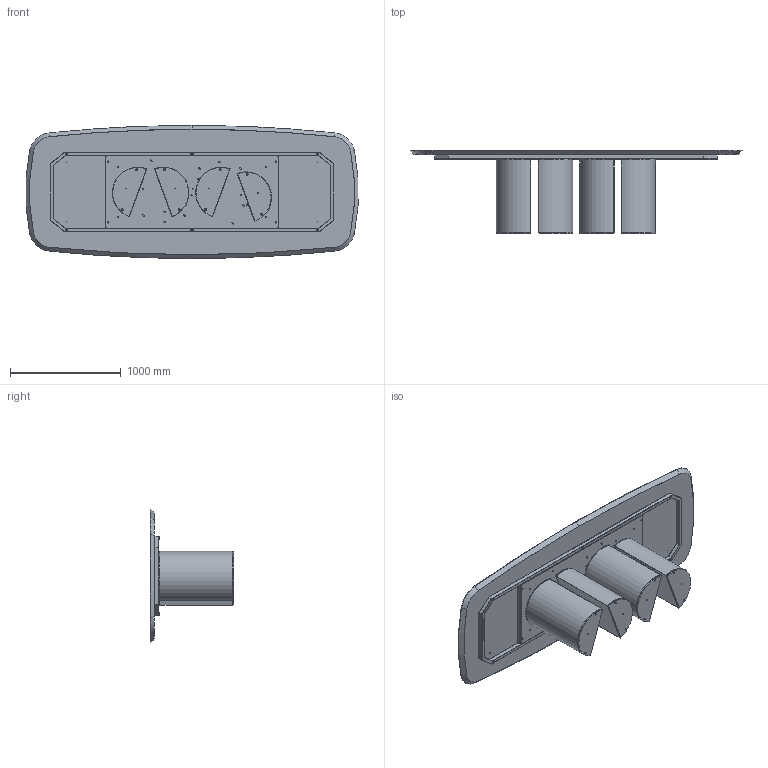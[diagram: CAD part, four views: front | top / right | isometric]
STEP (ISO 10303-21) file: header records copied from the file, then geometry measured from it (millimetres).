
FILE_DESCRIPTION (( 'STEP AP203' ), '1' );
FILE_NAME ('PL44W.STEP', '2024-08-07T13:58:28', ( '' ), ( '' ), 'SwSTEP 2.0', 'SolidWorks 2022', '' );
FILE_SCHEMA (( 'CONFIG_CONTROL_DESIGN' ));
Length unit declared in the file: millimetre
Products named in the file (14): Assieme Basamento PLAI_Basamento per tavoli; rondella M8_8X24; TTAV07-04-TELAIO X TAVOLI PLAI ONDA NOA 300; TTAV07_02-01-VASSOIO TELAIO  PLAI ONDA NOA 300; M8xXXmm_M8x20mm; PLA000000ZOC-01-PLAI ZOCCOLO DELLA BASE; M8xXXmm_M8x55mm; TTAV07_01-04-STRUTTURA TAVOLI PLAI ONDA NOA 300; M8xXXmm_hex_M8X20mm; PL44W; PLA000000BAS-00-PLAI BASE GREZZA; W4XCMXX-00-Piani Sagomati legno_3000 x 1200; COLLO TELAIO UNIVERSALE TTAV07 CON FERRAMENTA_MTG TOP LEGNO-MARMO-KING; M8xXXmm_hex_M8X60mm
Assembly tree (41 placements, depth 4):
  PL44W
    COLLO TELAIO UNIVERSALE TTAV07 CON FERRAMENTA_MTG TOP LEGNO-MARMO-KING
      TTAV07-04-TELAIO X TAVOLI PLAI ONDA NOA 300
        TTAV07_01-04-STRUTTURA TAVOLI PLAI ONDA NOA 300
        TTAV07_02-01-VASSOIO TELAIO  PLAI ONDA NOA 300
      rondella M8_8X24  x6
      M8xXXmm_M8x55mm  x6
    Assieme Basamento PLAI_Basamento per tavoli  x4
      PLA000000BAS-00-PLAI BASE GREZZA
      PLA000000ZOC-01-PLAI ZOCCOLO DELLA BASE
      M8xXXmm_hex_M8X60mm
      M8xXXmm_hex_M8X20mm
    rondella M8_8X24  x8
    M8xXXmm_M8x20mm  x8
    W4XCMXX-00-Piani Sagomati legno_3000 x 1200
Bounding box: 2991.72 x 752 x 1200 mm (x, y, z)
Volume: 140259242.7 mm3; surface area: 18591941.4 mm2
Topology: 59 solids, 59 shells, 1621 faces, 3706 edges, 2156 vertices
Faces by surface type: plane 632, cylinder 507, cone 273, torus 193, sphere 16
Entity records: 22438 total; most frequent: DIRECTION 3710, CARTESIAN_POINT 3556, ORIENTED_EDGE 3276, EDGE_CURVE 1638, AXIS2_PLACEMENT_3D 1402, VERTEX_POINT 1012, LINE 906, VECTOR 906
